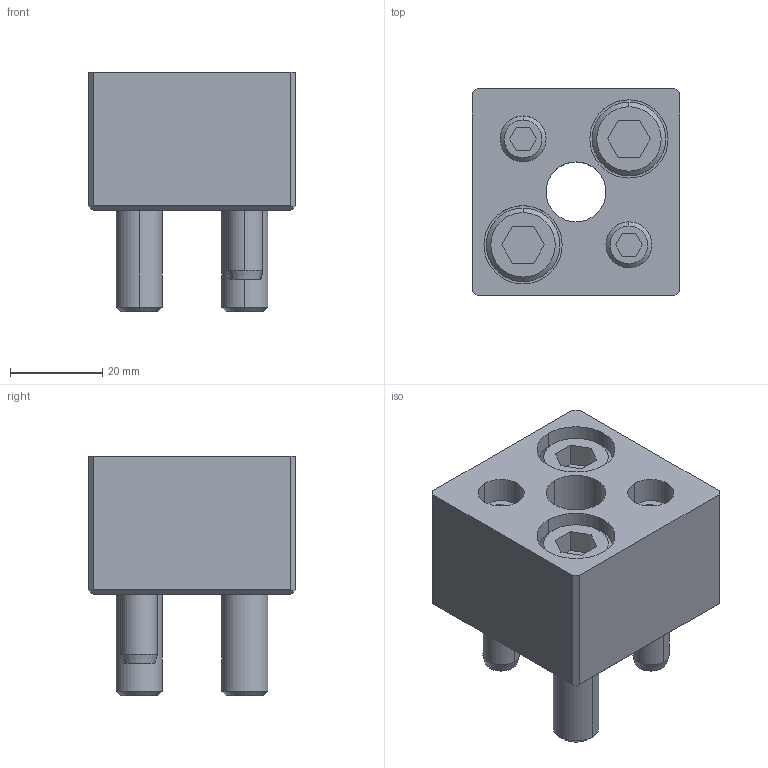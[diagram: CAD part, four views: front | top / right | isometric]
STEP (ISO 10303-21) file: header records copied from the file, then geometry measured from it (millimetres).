
FILE_DESCRIPTION(/* description */ (''),/* implementation_level */ '2;1');
FILE_NAME(/* name */ '3d_mpsr13_04607_r00.stp',/* time_stamp */ '2011-01-10T14:13:28+09:00',/* author */ ('MISUMI'),/* organization */ (''),/* preprocessor_version */ 'ST-DEVELOPER v11',/* originating_system */ 'UGS - NX 5.0',/* authorisation */ '');
FILE_SCHEMA (('CONFIG_CONTROL_DESIGN'));
Length unit declared in the file: millimetre
Products named in the file (1): 3d_mpsr13_04607_r00
Bounding box: 45 x 45 x 52 mm (x, y, z)
Volume: 57008.5 mm3; surface area: 21428.2 mm2
Topology: 7 solids, 7 shells, 139 faces, 306 edges, 196 vertices
Faces by surface type: plane 67, cylinder 46, cone 26
Entity records: 3950 total; most frequent: DIRECTION 698, CARTESIAN_POINT 684, ORIENTED_EDGE 612, EDGE_CURVE 306, AXIS2_PLACEMENT_3D 258, VERTEX_POINT 196, LINE 182, VECTOR 182
